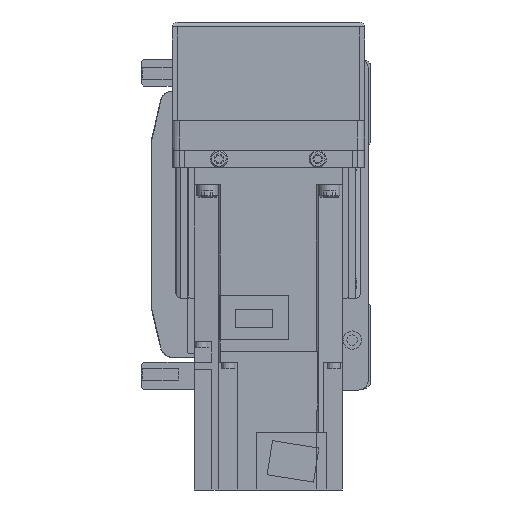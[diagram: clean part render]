
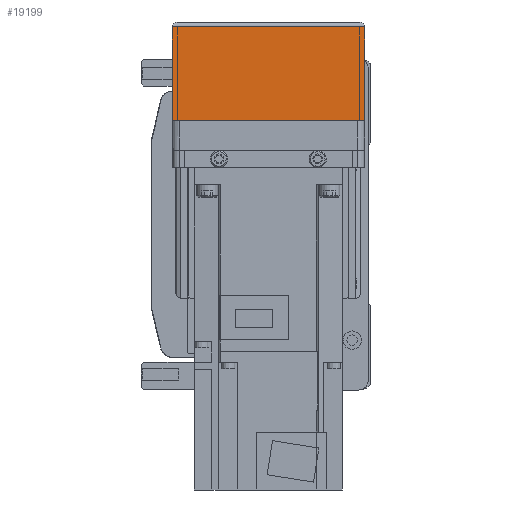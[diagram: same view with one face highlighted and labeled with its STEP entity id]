
A CAD part, left-side view. The second image highlights one B-rep face of the part: STEP entity #19199.
In plain terms, the highlighted planar face has unit normal (-1, 0, 0).
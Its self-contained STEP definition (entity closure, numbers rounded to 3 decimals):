
#2840=ORIENTED_EDGE('',*,*,#7713,.F.);
#2841=ORIENTED_EDGE('',*,*,#7714,.F.);
#2842=ORIENTED_EDGE('',*,*,#7715,.T.);
#2843=ORIENTED_EDGE('',*,*,#7716,.F.);
#7713=EDGE_CURVE('',#10248,#10239,#12233,.T.);
#7714=EDGE_CURVE('',#10265,#10248,#12234,.T.);
#7715=EDGE_CURVE('',#10265,#10266,#12235,.T.);
#7716=EDGE_CURVE('',#10239,#10266,#12236,.T.);
#10239=VERTEX_POINT('',#29436);
#10248=VERTEX_POINT('',#29454);
#10265=VERTEX_POINT('',#29502);
#10266=VERTEX_POINT('',#29504);
#12233=LINE('',#29500,#13933);
#12234=LINE('',#29501,#13934);
#12235=LINE('',#29503,#13935);
#12236=LINE('',#29505,#13936);
#13933=VECTOR('',#23605,1000.);
#13934=VECTOR('',#23606,1000.);
#13935=VECTOR('',#23607,1000.);
#13936=VECTOR('',#23608,1000.);
#15465=EDGE_LOOP('',(#2840,#2841,#2842,#2843));
#17025=FACE_BOUND('',#15465,.T.);
#18426=PLANE('',#20569);
#19199=ADVANCED_FACE('',(#17025),#18426,.F.);
#20569=AXIS2_PLACEMENT_3D('',#29499,#23603,#23604);
#23603=DIRECTION('',(1.,0.,0.));
#23604=DIRECTION('',(0.,0.,-1.));
#23605=DIRECTION('',(0.,-1.,0.));
#23606=DIRECTION('',(0.,0.,1.));
#23607=DIRECTION('',(0.,-1.,0.));
#23608=DIRECTION('',(0.,0.,-1.));
#29436=CARTESIAN_POINT('',(-158.,-39.,-12.1));
#29454=CARTESIAN_POINT('',(-158.,39.,-12.1));
#29499=CARTESIAN_POINT('',(-158.,36.,7.));
#29500=CARTESIAN_POINT('',(-158.,50.,-12.1));
#29501=CARTESIAN_POINT('',(-158.,39.,-50.));
#29502=CARTESIAN_POINT('',(-158.,39.,-50.));
#29503=CARTESIAN_POINT('',(-158.,40.,-50.));
#29504=CARTESIAN_POINT('',(-158.,-39.,-50.));
#29505=CARTESIAN_POINT('',(-158.,-39.,-12.1));
